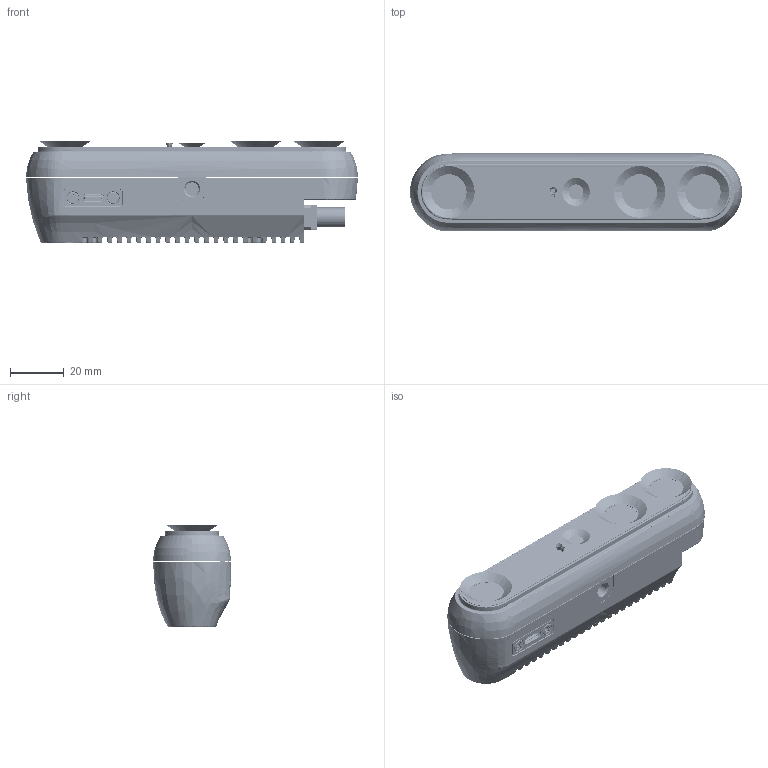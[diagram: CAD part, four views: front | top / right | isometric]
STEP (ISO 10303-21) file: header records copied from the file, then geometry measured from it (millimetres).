
FILE_DESCRIPTION((''),'2;1');
FILE_NAME('00_MB2401_355LG_3D_20240416_ASM','2024-07-12T17:51:04',('tangjianhua'),(''),'CREO PARAMETRIC BY PTC INC, 2021284','CREO PARAMETRIC BY PTC INC, 2021284','');
FILE_SCHEMA(('AUTOMOTIVE_DESIGN { 1 0 10303 214 1 1 1 1 }'));
Products named in the file (1): 00_MB2401_355LG_3D_20240416_ASM
Bounding box: 124.02 x 29.03 x 38.18 mm (x, y, z)
Volume: 2303.3 mm3; surface area: 45447.7 mm2
Topology: 35 solids, 159 shells, 7987 faces, 23267 edges, 15190 vertices
Faces by surface type: plane 4185, cylinder 1988, bspline 1016, torus 357, cone 339, sphere 60, extrusion 40, revolution 2
Entity records: 364194 total; most frequent: CARTESIAN_POINT 127534, ORIENTED_EDGE 42928, DIRECTION 37486, EDGE_CURVE 23248, VERTEX_POINT 15188, VECTOR 14158, LINE 14118, PRESENTATION_STYLE_ASSIGNMENT 11693
